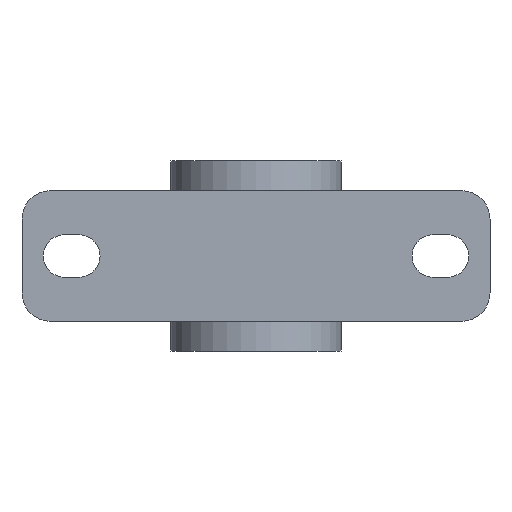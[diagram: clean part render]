
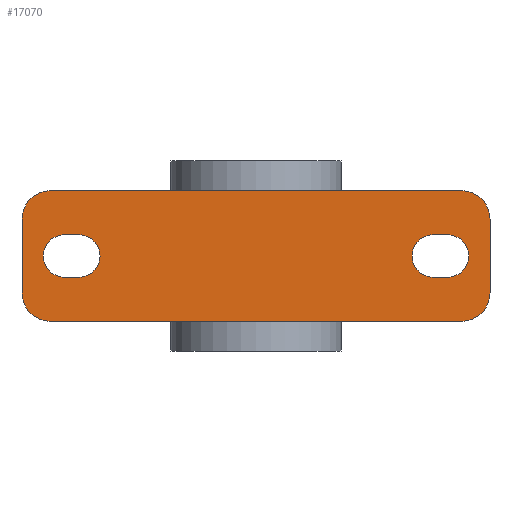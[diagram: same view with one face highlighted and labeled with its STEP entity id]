
A CAD part, front view. The second image highlights one B-rep face of the part: STEP entity #17070.
In plain terms, the highlighted planar face has unit normal (0, -1, 0).
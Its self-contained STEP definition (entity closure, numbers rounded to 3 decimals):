
#4390=CARTESIAN_POINT('',(-67.5,-50.,7.5));
#4400=VERTEX_POINT('',#4390);
#4580=CARTESIAN_POINT('',(-75.,-50.,0.));
#4590=VERTEX_POINT('',#4580);
#4620=CARTESIAN_POINT('',(-67.5,-50.,0.));
#4630=DIRECTION('',(0.,1.,0.));
#4640=DIRECTION('',(1.,0.,0.));
#4650=AXIS2_PLACEMENT_3D('',#4620,#4630,#4640);
#4660=CIRCLE('',#4650,7.5);
#4670=EDGE_CURVE('',#4590,#4400,#4660,.T.);
#6390=CARTESIAN_POINT('',(-62.5,-50.,-7.5));
#6400=VERTEX_POINT('',#6390);
#6580=CARTESIAN_POINT('',(-55.,-50.,0.));
#6590=VERTEX_POINT('',#6580);
#6620=CARTESIAN_POINT('',(-62.5,-50.,0.));
#6630=DIRECTION('',(0.,1.,0.));
#6640=DIRECTION('',(1.,0.,0.));
#6650=AXIS2_PLACEMENT_3D('',#6620,#6630,#6640);
#6660=CIRCLE('',#6650,7.5);
#6670=EDGE_CURVE('',#6590,#6400,#6660,.T.);
#8130=CARTESIAN_POINT('',(0.,-50.,-23.));
#8140=DIRECTION('',(1.,0.,0.));
#8150=VECTOR('',#8140,1.);
#8160=LINE('',#8130,#8150);
#8170=CARTESIAN_POINT('',(-72.5,-50.,-23.));
#8180=VERTEX_POINT('',#8170);
#8190=CARTESIAN_POINT('',(72.5,-50.,-23.));
#8200=VERTEX_POINT('',#8190);
#8210=EDGE_CURVE('',#8180,#8200,#8160,.T.);
#9030=CARTESIAN_POINT('',(82.5,-50.,-13.));
#9040=VERTEX_POINT('',#9030);
#9070=CARTESIAN_POINT('',(82.5,-50.,0.));
#9080=DIRECTION('',(0.,0.,1.));
#9090=VECTOR('',#9080,1.);
#9100=LINE('',#9070,#9090);
#9110=CARTESIAN_POINT('',(82.5,-50.,13.));
#9120=VERTEX_POINT('',#9110);
#9130=EDGE_CURVE('',#9040,#9120,#9100,.T.);
#9330=CARTESIAN_POINT('',(62.5,-50.,7.5));
#9340=VERTEX_POINT('',#9330);
#9390=CARTESIAN_POINT('',(0.,-50.,7.5));
#9400=DIRECTION('',(-1.,0.,0.));
#9410=VECTOR('',#9400,1.);
#9420=LINE('',#9390,#9410);
#9430=CARTESIAN_POINT('',(67.5,-50.,7.5));
#9440=VERTEX_POINT('',#9430);
#9450=EDGE_CURVE('',#9440,#9340,#9420,.T.);
#9730=CARTESIAN_POINT('',(55.,-50.,0.));
#9740=VERTEX_POINT('',#9730);
#9790=CARTESIAN_POINT('',(62.5,-50.,0.));
#9800=DIRECTION('',(0.,1.,0.));
#9810=DIRECTION('',(1.,0.,0.));
#9820=AXIS2_PLACEMENT_3D('',#9790,#9800,#9810);
#9830=CIRCLE('',#9820,7.5);
#9840=EDGE_CURVE('',#9740,#9340,#9830,.T.);
#10230=CARTESIAN_POINT('',(67.5,-50.,-7.5));
#10240=VERTEX_POINT('',#10230);
#10290=CARTESIAN_POINT('',(0.,-50.,-7.5));
#10300=DIRECTION('',(1.,0.,0.));
#10310=VECTOR('',#10300,1.);
#10320=LINE('',#10290,#10310);
#10330=CARTESIAN_POINT('',(62.5,-50.,-7.5));
#10340=VERTEX_POINT('',#10330);
#10350=EDGE_CURVE('',#10340,#10240,#10320,.T.);
#10630=CARTESIAN_POINT('',(75.,-50.,0.));
#10640=VERTEX_POINT('',#10630);
#10690=CARTESIAN_POINT('',(67.5,-50.,0.));
#10700=DIRECTION('',(0.,1.,0.));
#10710=DIRECTION('',(1.,0.,0.));
#10720=AXIS2_PLACEMENT_3D('',#10690,#10700,#10710);
#10730=CIRCLE('',#10720,7.5);
#10740=EDGE_CURVE('',#10640,#10240,#10730,.T.);
#11030=CARTESIAN_POINT('',(-82.5,-50.,0.));
#11040=DIRECTION('',(0.,0.,-1.));
#11050=VECTOR('',#11040,1.);
#11060=LINE('',#11030,#11050);
#11070=CARTESIAN_POINT('',(-82.5,-50.,13.));
#11080=VERTEX_POINT('',#11070);
#11090=CARTESIAN_POINT('',(-82.5,-50.,-13.));
#11100=VERTEX_POINT('',#11090);
#11110=EDGE_CURVE('',#11080,#11100,#11060,.T.);
#11440=CARTESIAN_POINT('',(0.,-50.,-7.5));
#11450=DIRECTION('',(1.,0.,0.));
#11460=VECTOR('',#11450,1.);
#11470=LINE('',#11440,#11460);
#11480=CARTESIAN_POINT('',(-67.5,-50.,-7.5));
#11490=VERTEX_POINT('',#11480);
#11500=EDGE_CURVE('',#11490,#6400,#11470,.T.);
#14360=CARTESIAN_POINT('',(0.,-50.,7.5));
#14370=DIRECTION('',(-1.,0.,0.));
#14380=VECTOR('',#14370,1.);
#14390=LINE('',#14360,#14380);
#14400=CARTESIAN_POINT('',(-62.5,-50.,7.5));
#14410=VERTEX_POINT('',#14400);
#14420=EDGE_CURVE('',#14410,#4400,#14390,.T.);
#15470=CARTESIAN_POINT('',(72.5,-50.,23.));
#15480=VERTEX_POINT('',#15470);
#15510=CARTESIAN_POINT('',(0.,-50.,23.));
#15520=DIRECTION('',(1.,0.,0.));
#15530=VECTOR('',#15520,1.);
#15540=LINE('',#15510,#15530);
#15550=CARTESIAN_POINT('',(-72.5,-50.,23.));
#15560=VERTEX_POINT('',#15550);
#15570=EDGE_CURVE('',#15560,#15480,#15540,.T.);
#16480=CARTESIAN_POINT('',(0.,-50.,0.));
#16490=DIRECTION('',(0.,1.,0.));
#16500=DIRECTION('',(1.,0.,0.));
#16510=AXIS2_PLACEMENT_3D('',#16480,#16490,#16500);
#16520=PLANE('',#16510);
#16530=CARTESIAN_POINT('',(72.5,-50.,13.));
#16540=DIRECTION('',(0.,1.,0.));
#16550=DIRECTION('',(1.,0.,0.));
#16560=AXIS2_PLACEMENT_3D('',#16530,#16540,#16550);
#16570=CIRCLE('',#16560,10.);
#16580=EDGE_CURVE('',#15480,#9120,#16570,.T.);
#16590=ORIENTED_EDGE('',*,*,#16580,.F.);
#16600=ORIENTED_EDGE('',*,*,#9130,.T.);
#16610=CARTESIAN_POINT('',(72.5,-50.,-13.));
#16620=DIRECTION('',(0.,1.,0.));
#16630=DIRECTION('',(1.,0.,0.));
#16640=AXIS2_PLACEMENT_3D('',#16610,#16620,#16630);
#16650=CIRCLE('',#16640,10.);
#16660=EDGE_CURVE('',#9040,#8200,#16650,.T.);
#16670=ORIENTED_EDGE('',*,*,#16660,.F.);
#16680=ORIENTED_EDGE('',*,*,#8210,.T.);
#16690=CARTESIAN_POINT('',(-72.5,-50.,-13.));
#16700=DIRECTION('',(0.,1.,0.));
#16710=DIRECTION('',(1.,0.,0.));
#16720=AXIS2_PLACEMENT_3D('',#16690,#16700,#16710);
#16730=CIRCLE('',#16720,10.);
#16740=EDGE_CURVE('',#8180,#11100,#16730,.T.);
#16750=ORIENTED_EDGE('',*,*,#16740,.F.);
#16760=ORIENTED_EDGE('',*,*,#11110,.T.);
#16770=CARTESIAN_POINT('',(-72.5,-50.,13.));
#16780=DIRECTION('',(0.,1.,0.));
#16790=DIRECTION('',(1.,0.,0.));
#16800=AXIS2_PLACEMENT_3D('',#16770,#16780,#16790);
#16810=CIRCLE('',#16800,10.);
#16820=EDGE_CURVE('',#11080,#15560,#16810,.T.);
#16830=ORIENTED_EDGE('',*,*,#16820,.F.);
#16840=ORIENTED_EDGE('',*,*,#15570,.F.);
#16850=EDGE_LOOP('',(#16840,#16830,#16760,#16750,#16680,#16670,#16600,
#16590));
#16860=FACE_OUTER_BOUND('',#16850,.T.);
#16870=EDGE_CURVE('',#9440,#10640,#10730,.T.);
#16880=ORIENTED_EDGE('',*,*,#16870,.T.);
#16890=ORIENTED_EDGE('',*,*,#9450,.F.);
#16900=ORIENTED_EDGE('',*,*,#9840,.T.);
#16910=EDGE_CURVE('',#10340,#9740,#9830,.T.);
#16920=ORIENTED_EDGE('',*,*,#16910,.T.);
#16930=ORIENTED_EDGE('',*,*,#10350,.F.);
#16940=ORIENTED_EDGE('',*,*,#10740,.T.);
#16950=EDGE_LOOP('',(#16940,#16930,#16920,#16900,#16890,#16880));
#16960=FACE_BOUND('',#16950,.T.);
#16970=EDGE_CURVE('',#14410,#6590,#6660,.T.);
#16980=ORIENTED_EDGE('',*,*,#16970,.T.);
#16990=ORIENTED_EDGE('',*,*,#14420,.F.);
#17000=ORIENTED_EDGE('',*,*,#4670,.T.);
#17010=EDGE_CURVE('',#11490,#4590,#4660,.T.);
#17020=ORIENTED_EDGE('',*,*,#17010,.T.);
#17030=ORIENTED_EDGE('',*,*,#11500,.F.);
#17040=ORIENTED_EDGE('',*,*,#6670,.T.);
#17050=EDGE_LOOP('',(#17040,#17030,#17020,#17000,#16990,#16980));
#17060=FACE_BOUND('',#17050,.T.);
#17070=ADVANCED_FACE('',(#16860,#16960,#17060),#16520,.F.);
